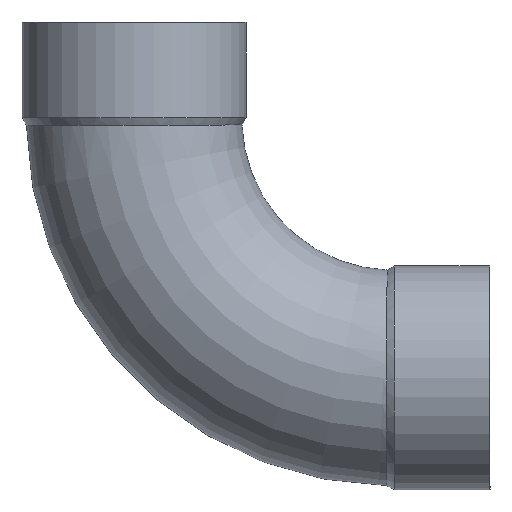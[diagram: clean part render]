
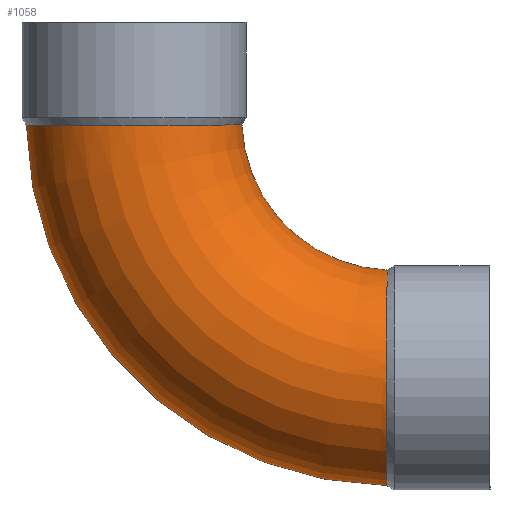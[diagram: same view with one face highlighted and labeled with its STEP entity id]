
A CAD part, front view. The second image highlights one B-rep face of the part: STEP entity #1058.
In plain terms, the highlighted toroidal (fillet/blend) face has major radius 106.8 mm and minor radius 44.5 mm.
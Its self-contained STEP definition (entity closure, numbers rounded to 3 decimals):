
#49=CARTESIAN_POINT('',(-129.245,0.,-2.434));
#50=VERTEX_POINT('',#49);
#51=CARTESIAN_POINT('',(19.601,0.,-151.28));
#52=VERTEX_POINT('',#51);
#53=CARTESIAN_POINT('',(22.035,0.,0.0));
#54=DIRECTION('',(0.0,-1.0,0.0));
#55=DIRECTION('',(0.0,0.0,-1.0));
#56=AXIS2_PLACEMENT_3D('',#53,#54,#55);
#57=CIRCLE('',#56,151.3);
#58=EDGE_CURVE('',#50,#52,#57,.T.);
#60=CARTESIAN_POINT('',(-40.222,0.,-2.325));
#61=VERTEX_POINT('',#60);
#85=CARTESIAN_POINT('',(19.71,0.,-62.257));
#86=VERTEX_POINT('',#85);
#87=CARTESIAN_POINT('',(22.035,0.,0.0));
#88=DIRECTION('',(0.0,1.0,0.0));
#89=DIRECTION('',(0.0,0.0,-1.0));
#90=AXIS2_PLACEMENT_3D('',#87,#88,#89);
#91=CIRCLE('',#90,62.3);
#92=EDGE_CURVE('',#86,#61,#91,.T.);
#224=CARTESIAN_POINT('',(-40.222,0.,-2.325));
#225=CARTESIAN_POINT('',(-40.222,-0.388,-2.325));
#226=CARTESIAN_POINT('',(-40.227,-0.775,-2.325));
#227=CARTESIAN_POINT('',(-40.388,-6.955,-2.325));
#228=CARTESIAN_POINT('',(-41.67,-12.661,-2.329));
#229=CARTESIAN_POINT('',(-46.35,-23.264,-2.34));
#230=CARTESIAN_POINT('',(-49.704,-28.059,-2.348));
#231=CARTESIAN_POINT('',(-58.063,-36.093,-2.364));
#232=CARTESIAN_POINT('',(-62.988,-39.256,-2.372));
#233=CARTESIAN_POINT('',(-73.772,-43.516,-2.388));
#234=CARTESIAN_POINT('',(-79.529,-44.573,-2.395));
#235=CARTESIAN_POINT('',(-91.121,-44.42,-2.407));
#236=CARTESIAN_POINT('',(-96.846,-43.212,-2.412));
#237=CARTESIAN_POINT('',(-107.51,-38.671,-2.42));
#238=CARTESIAN_POINT('',(-112.348,-35.381,-2.424));
#239=CARTESIAN_POINT('',(-120.489,-27.132,-2.429));
#240=CARTESIAN_POINT('',(-123.714,-22.253,-2.431));
#241=CARTESIAN_POINT('',(-128.114,-11.532,-2.433));
#242=CARTESIAN_POINT('',(-129.245,-5.794,-2.434));
#243=CARTESIAN_POINT('',(-129.245,0.,-2.434));
#244=B_SPLINE_CURVE_WITH_KNOTS('',3,(#224,#225,#226,#227,#228,#229,#230,#231,#232,#233,#234,#235,#236,#237,#238,#239,#240,#241,#242,#243),.UNSPECIFIED.,.F.,.U.,(4,2,2,2,2,2,2,2,2,4),(-14.026,-13.909,-12.171,-10.432,-8.693,-6.954,-5.215,-3.476,-1.738,0.0),.UNSPECIFIED.);
#245=EDGE_CURVE('',#61,#50,#244,.T.);
#1025=CARTESIAN_POINT('',(22.035,0.,0.0));
#1026=DIRECTION('',(0.0,-1.0,0.0));
#1027=DIRECTION('',(0.0,0.0,-1.0));
#1028=AXIS2_PLACEMENT_3D('',#1025,#1026,#1027);
#1029=TOROIDAL_SURFACE('',#1028,106.8,44.5);
#1030=ORIENTED_EDGE('',*,*,#58,.T.);
#1031=CARTESIAN_POINT('',(19.601,0.,-151.28));
#1032=CARTESIAN_POINT('',(19.601,-3.281,-151.28));
#1033=CARTESIAN_POINT('',(19.601,-6.551,-150.918));
#1034=CARTESIAN_POINT('',(19.602,-12.953,-149.48));
#1035=CARTESIAN_POINT('',(19.603,-16.064,-148.409));
#1036=CARTESIAN_POINT('',(19.605,-24.268,-144.528));
#1037=CARTESIAN_POINT('',(19.607,-28.971,-141.05));
#1038=CARTESIAN_POINT('',(19.613,-36.782,-132.486));
#1039=CARTESIAN_POINT('',(19.616,-39.814,-127.482));
#1040=CARTESIAN_POINT('',(19.625,-43.789,-116.592));
#1041=CARTESIAN_POINT('',(19.631,-44.694,-110.81));
#1042=CARTESIAN_POINT('',(19.643,-44.237,-99.224));
#1043=CARTESIAN_POINT('',(19.65,-42.878,-93.53));
#1044=CARTESIAN_POINT('',(19.666,-38.057,-82.986));
#1045=CARTESIAN_POINT('',(19.674,-34.64,-78.235));
#1046=CARTESIAN_POINT('',(19.69,-26.18,-70.313));
#1047=CARTESIAN_POINT('',(19.697,-21.218,-67.217));
#1048=CARTESIAN_POINT('',(19.707,-10.752,-63.239));
#1049=CARTESIAN_POINT('',(19.71,-5.397,-62.257));
#1050=CARTESIAN_POINT('',(19.71,0.,-62.257));
#1051=B_SPLINE_CURVE_WITH_KNOTS('',3,(#1031,#1032,#1033,#1034,#1035,#1036,#1037,#1038,#1039,#1040,#1041,#1042,#1043,#1044,#1045,#1046,#1047,#1048,#1049,#1050),.UNSPECIFIED.,.F.,.U.,(4,2,2,2,2,2,2,2,2,4),(-28.048,-27.063,-26.079,-24.341,-22.602,-20.863,-19.124,-17.385,-15.647,-14.026),.UNSPECIFIED.);
#1052=EDGE_CURVE('',#52,#86,#1051,.T.);
#1053=ORIENTED_EDGE('',*,*,#1052,.T.);
#1054=ORIENTED_EDGE('',*,*,#92,.T.);
#1055=ORIENTED_EDGE('',*,*,#245,.T.);
#1056=EDGE_LOOP('',(#1030,#1053,#1054,#1055));
#1057=FACE_OUTER_BOUND('',#1056,.T.);
#1058=ADVANCED_FACE('',(#1057),#1029,.T.);
